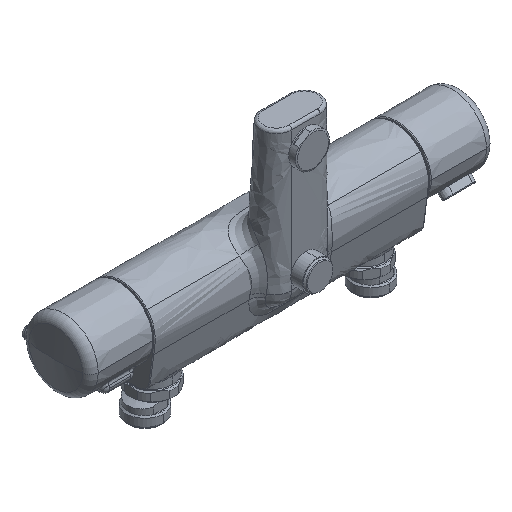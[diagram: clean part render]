
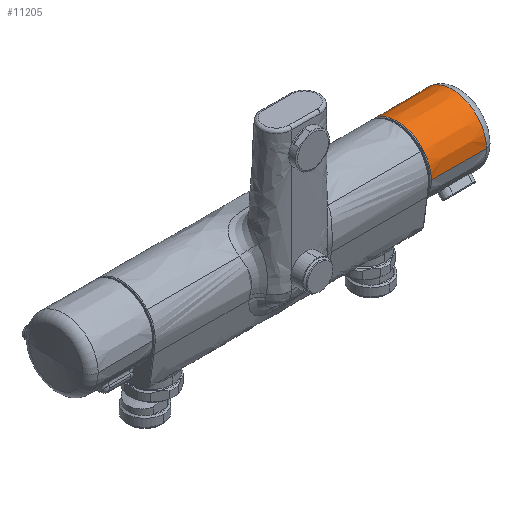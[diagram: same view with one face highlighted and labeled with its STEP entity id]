
A CAD part, isometric view. The second image highlights one B-rep face of the part: STEP entity #11205.
In plain terms, the highlighted conical face has half-angle 0.25 degrees and reference radius 24.194 mm.
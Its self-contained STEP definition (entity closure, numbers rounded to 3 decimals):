
#42 = CARTESIAN_POINT ( 'NONE',  ( 132.951, 23.428, 64.369 ) ) ;
#186 = CARTESIAN_POINT ( 'NONE',  ( 117.452, 24.084, 58.5 ) ) ;
#827 = CIRCLE ( 'NONE', #13987, 24.172 ) ;
#1055 = CARTESIAN_POINT ( 'NONE',  ( 137.558, 23.45, 64.362 ) ) ;
#1159 = CARTESIAN_POINT ( 'NONE',  ( 118.119, 23.94, 61.184 ) ) ;
#1265 = DIRECTION ( 'NONE',  ( 1., -0.004, 0. ) ) ;
#1963 = AXIS2_PLACEMENT_3D ( 'NONE', #5464, #7654, #4227 ) ;
#2143 = ORIENTED_EDGE ( 'NONE', *, *, #12640, .T. ) ;
#2205 = CARTESIAN_POINT ( 'NONE',  ( 120.141, 23.604, 63.342 ) ) ;
#2360 = CARTESIAN_POINT ( 'NONE',  ( 121.011, 23.505, 63.823 ) ) ;
#2484 = CARTESIAN_POINT ( 'NONE',  ( 98.721, 0., 58.5 ) ) ;
#2836 = ORIENTED_EDGE ( 'NONE', *, *, #14654, .T. ) ;
#3373 = CARTESIAN_POINT ( 'NONE',  ( 117.791, 24.008, 60.46 ) ) ;
#3413 = CIRCLE ( 'NONE', #12769, 24.002 ) ;
#4227 = DIRECTION ( 'NONE',  ( 0., 1., 0. ) ) ;
#4511 = CARTESIAN_POINT ( 'NONE',  ( 117.452, 24.084, 58.5 ) ) ;
#4562 = CARTESIAN_POINT ( 'NONE',  ( 119.06, 23.764, 62.467 ) ) ;
#4631 = B_SPLINE_CURVE_WITH_KNOTS ( 'NONE', 3,
 ( #6694, #8825, #9974, #7597, #5456, #2360, #12375, #2205, #13506, #5640, #13702, #4562, #5593, #10309, #1159, #3373, #11298, #12467, #13547, #4511 ),
 .UNSPECIFIED., .F., .F.,
 ( 4, 2, 2, 2, 2, 2, 2, 2, 2, 4 ),
 ( 0., 0.001, 0.002, 0.004, 0.004, 0.005, 0.006, 0.007, 0.008, 0.01 ),
 .UNSPECIFIED. ) ;
#5016 = CARTESIAN_POINT ( 'NONE',  ( 137.558, -24.172, 58.5 ) ) ;
#5023 = VECTOR ( 'NONE', #1265, 1000. ) ;
#5047 = EDGE_CURVE ( 'NONE', #5048, #9019, #3413, .T. ) ;
#5048 = VERTEX_POINT ( 'NONE', #10335 ) ;
#5402 = CONICAL_SURFACE ( 'NONE', #1963, 24.194, 0.004 ) ;
#5456 = CARTESIAN_POINT ( 'NONE',  ( 121.759, 23.443, 64.102 ) ) ;
#5464 = CARTESIAN_POINT ( 'NONE',  ( 142.652, 0., 58.5 ) ) ;
#5534 = LINE ( 'NONE', #9252, #5023 ) ;
#5593 = CARTESIAN_POINT ( 'NONE',  ( 118.793, 23.81, 62.172 ) ) ;
#5594 = EDGE_LOOP ( 'NONE', ( #7157, #13206, #2143, #13045, #2836, #9707 ) ) ;
#5640 = CARTESIAN_POINT ( 'NONE',  ( 119.654, 23.671, 62.992 ) ) ;
#5942 = VERTEX_POINT ( 'NONE', #14230 ) ;
#5957 = CARTESIAN_POINT ( 'NONE',  ( 137.558, 0., 58.5 ) ) ;
#6039 = EDGE_CURVE ( 'NONE', #9019, #13930, #5534, .T. ) ;
#6694 = CARTESIAN_POINT ( 'NONE',  ( 123.736, 23.383, 64.382 ) ) ;
#6954 = VERTEX_POINT ( 'NONE', #186 ) ;
#7129 = DIRECTION ( 'NONE',  ( -1., 0., 0. ) ) ;
#7157 = ORIENTED_EDGE ( 'NONE', *, *, #5047, .T. ) ;
#7597 = CARTESIAN_POINT ( 'NONE',  ( 122.15, 23.419, 64.208 ) ) ;
#7654 = DIRECTION ( 'NONE',  ( 1., 0., 0. ) ) ;
#8509 = B_SPLINE_CURVE_WITH_KNOTS ( 'NONE', 3,
 ( #1055, #42, #9054, #11384 ),
 .UNSPECIFIED., .F., .F.,
 ( 4, 4 ),
 ( 0., 0.014 ),
 .UNSPECIFIED. ) ;
#8825 = CARTESIAN_POINT ( 'NONE',  ( 123.333, 23.381, 64.383 ) ) ;
#9019 = VERTEX_POINT ( 'NONE', #11206 ) ;
#9054 = CARTESIAN_POINT ( 'NONE',  ( 128.344, 23.405, 64.376 ) ) ;
#9125 = FACE_OUTER_BOUND ( 'NONE', #5594, .T. ) ;
#9252 = CARTESIAN_POINT ( 'NONE',  ( 142.652, -24.194, 58.5 ) ) ;
#9508 = EDGE_CURVE ( 'NONE', #5048, #6954, #11460, .T. ) ;
#9707 = ORIENTED_EDGE ( 'NONE', *, *, #9508, .F. ) ;
#9749 = CARTESIAN_POINT ( 'NONE',  ( 142.652, 24.194, 58.5 ) ) ;
#9974 = CARTESIAN_POINT ( 'NONE',  ( 122.935, 23.388, 64.348 ) ) ;
#10309 = CARTESIAN_POINT ( 'NONE',  ( 118.319, 23.899, 61.526 ) ) ;
#10335 = CARTESIAN_POINT ( 'NONE',  ( 98.721, 24.002, 58.5 ) ) ;
#10378 = DIRECTION ( 'NONE',  ( 0., -1., 0. ) ) ;
#10662 = EDGE_CURVE ( 'NONE', #13492, #5942, #8509, .T. ) ;
#11205 = ADVANCED_FACE ( 'NONE', ( #9125 ), #5402, .T. ) ;
#11206 = CARTESIAN_POINT ( 'NONE',  ( 98.721, -24.002, 58.5 ) ) ;
#11298 = CARTESIAN_POINT ( 'NONE',  ( 117.663, 24.036, 60.075 ) ) ;
#11384 = CARTESIAN_POINT ( 'NONE',  ( 123.736, 23.383, 64.382 ) ) ;
#11460 = LINE ( 'NONE', #9749, #13051 ) ;
#11765 = CARTESIAN_POINT ( 'NONE',  ( 137.558, 23.45, 64.362 ) ) ;
#12011 = DIRECTION ( 'NONE',  ( 1., 0.004, 0. ) ) ;
#12375 = CARTESIAN_POINT ( 'NONE',  ( 120.653, 23.542, 63.651 ) ) ;
#12467 = CARTESIAN_POINT ( 'NONE',  ( 117.495, 24.074, 59.295 ) ) ;
#12640 = EDGE_CURVE ( 'NONE', #13930, #13492, #827, .T. ) ;
#12769 = AXIS2_PLACEMENT_3D ( 'NONE', #2484, #13730, #10378 ) ;
#13045 = ORIENTED_EDGE ( 'NONE', *, *, #10662, .T. ) ;
#13051 = VECTOR ( 'NONE', #12011, 1000. ) ;
#13206 = ORIENTED_EDGE ( 'NONE', *, *, #6039, .T. ) ;
#13492 = VERTEX_POINT ( 'NONE', #11765 ) ;
#13506 = CARTESIAN_POINT ( 'NONE',  ( 119.974, 23.626, 63.23 ) ) ;
#13547 = CARTESIAN_POINT ( 'NONE',  ( 117.452, 24.084, 58.9 ) ) ;
#13702 = CARTESIAN_POINT ( 'NONE',  ( 119.5, 23.694, 62.866 ) ) ;
#13730 = DIRECTION ( 'NONE',  ( 1., 0., 0. ) ) ;
#13930 = VERTEX_POINT ( 'NONE', #5016 ) ;
#13949 = DIRECTION ( 'NONE',  ( 0., -1., 0. ) ) ;
#13987 = AXIS2_PLACEMENT_3D ( 'NONE', #5957, #7129, #13949 ) ;
#14230 = CARTESIAN_POINT ( 'NONE',  ( 123.736, 23.383, 64.382 ) ) ;
#14654 = EDGE_CURVE ( 'NONE', #5942, #6954, #4631, .T. ) ;
